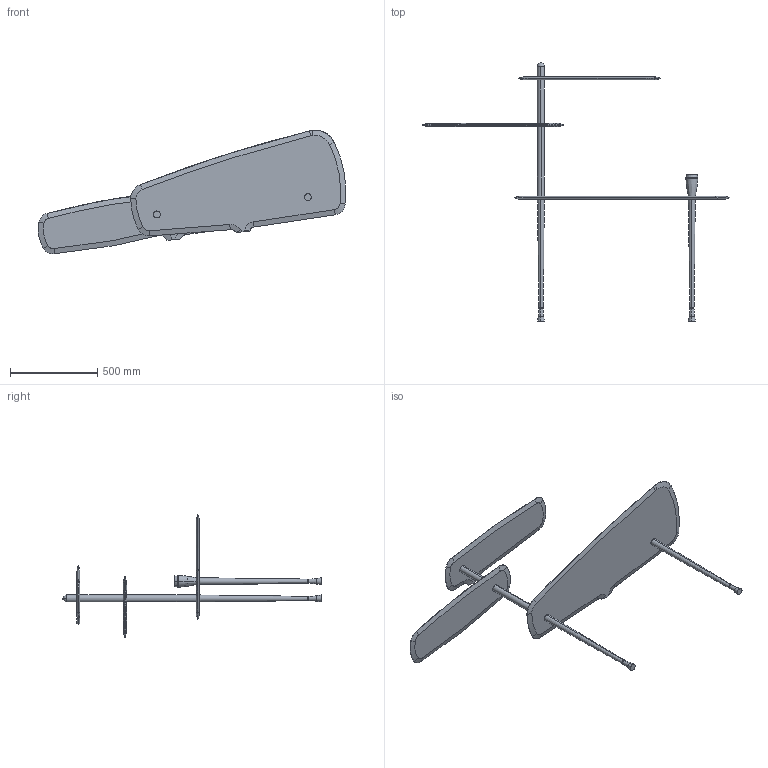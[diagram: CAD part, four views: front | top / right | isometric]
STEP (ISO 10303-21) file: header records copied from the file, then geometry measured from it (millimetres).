
FILE_DESCRIPTION (( 'STEP AP214' ), '1' );
FILE_NAME ('ESCRITORIO.STEP', '2016-10-05T07:28:47', ( 'Usuario' ), ( '' ), 'SwSTEP 2.0', 'SolidWorks 2016', '' );
FILE_SCHEMA (( 'AUTOMOTIVE_DESIGN' ));
Length unit declared in the file: millimetre
Products named in the file (9): BALDA_E; ESCRITORIO; BALDA_S_FIX_ESCRITORIO; BALDA_S_AIR_LATERAL; TRAMO_40; BASE_70; TRAMO_25; POSALAPICES_ESCRITORIO; TERMINAL
Assembly tree (9 placements, depth 2):
  ESCRITORIO
    BASE_70  x2
    POSALAPICES_ESCRITORIO
    TERMINAL
    TRAMO_25
    TRAMO_40
    BALDA_E
    BALDA_S_FIX_ESCRITORIO
    BALDA_S_AIR_LATERAL
Bounding box: 1767.4 x 1484 x 710.37 mm (x, y, z)
Volume: 17073791.1 mm3; surface area: 2155573.9 mm2
Topology: 9 solids, 9 shells, 188 faces, 407 edges, 240 vertices
Faces by surface type: cone 59, cylinder 52, plane 31, bspline 28, torus 14, sphere 4
Entity records: 7705 total; most frequent: CARTESIAN_POINT 3598, DIRECTION 811, ORIENTED_EDGE 754, EDGE_CURVE 377, AXIS2_PLACEMENT_3D 347, VERTEX_POINT 226, EDGE_LOOP 191, CIRCLE 188
